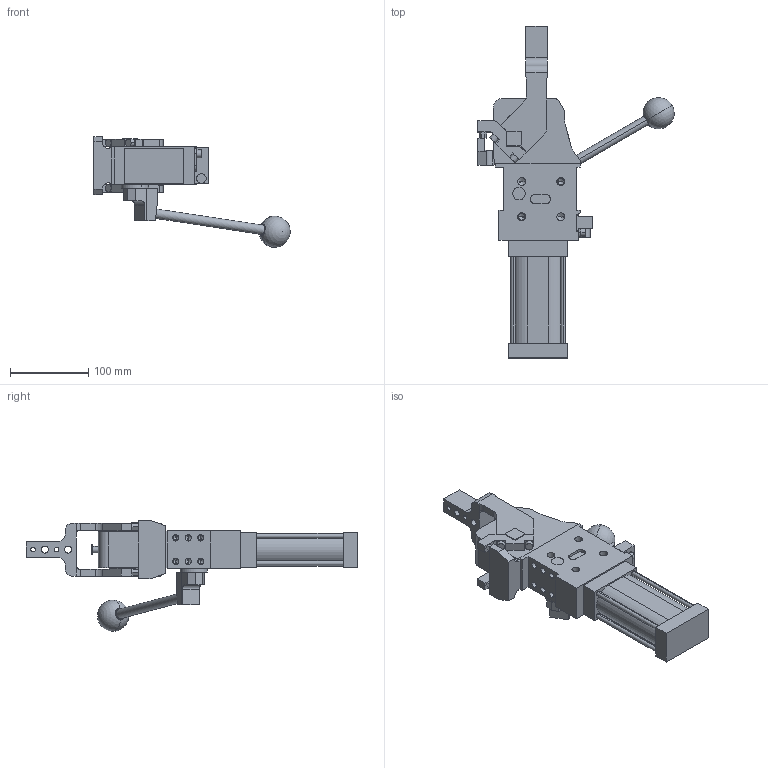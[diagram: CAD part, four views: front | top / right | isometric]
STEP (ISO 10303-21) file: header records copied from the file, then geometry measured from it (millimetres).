
FILE_DESCRIPTION (( 'STEP AP214' ), '1' );
FILE_NAME ('cplm50lbth1csi1g_75.STEP', '2023-01-26T13:26:20', ( '' ), ( '' ), 'SwSTEP 2.0', 'SolidWorks 2022', '' );
FILE_SCHEMA (( 'AUTOMOTIVE_DESIGN' ));
Length unit declared in the file: millimetre
Products named in the file (5): leva_h1cs_cpl50t; blocchetto_VEP_0; cplm50lbth1csi1g_75; comando_manuale_cplm_50; meccanica_cplm_50_tassello_esterno
Assembly tree (4 placements, depth 2):
  cplm50lbth1csi1g_75
    meccanica_cplm_50_tassello_esterno
    blocchetto_VEP_0
    leva_h1cs_cpl50t
    comando_manuale_cplm_50
Bounding box: 250.96 x 424.5 x 141.5 mm (x, y, z)
Volume: 1500103.9 mm3; surface area: 189553.4 mm2
Topology: 4 solids, 4 shells, 468 faces, 1213 edges, 761 vertices
Faces by surface type: plane 243, cylinder 173, cone 50, sphere 2
Entity records: 15560 total; most frequent: DIRECTION 2478, CARTESIAN_POINT 2465, ORIENTED_EDGE 2324, EDGE_CURVE 1162, AXIS2_PLACEMENT_3D 845, VECTOR 788, LINE 788, VERTEX_POINT 758
